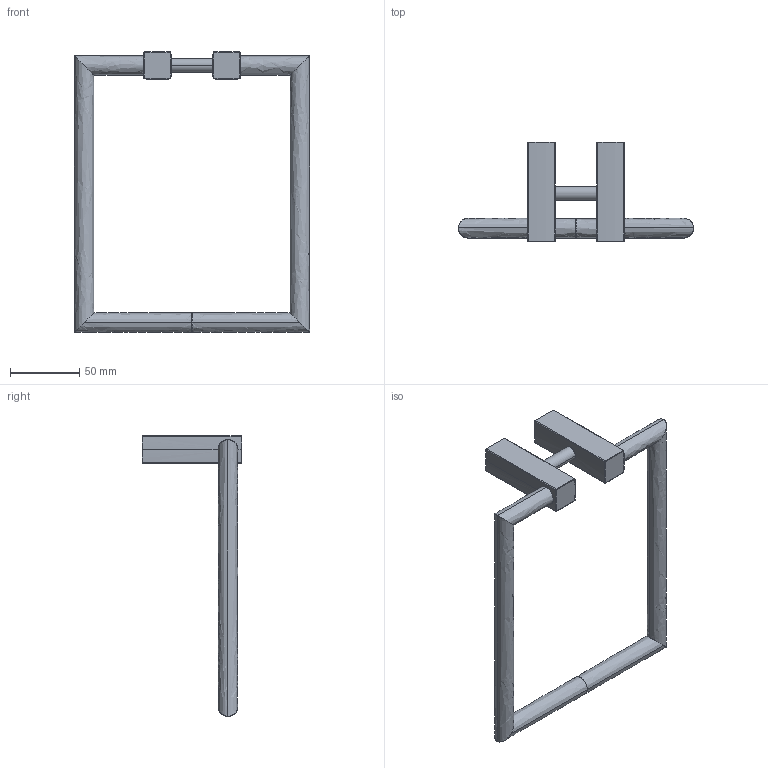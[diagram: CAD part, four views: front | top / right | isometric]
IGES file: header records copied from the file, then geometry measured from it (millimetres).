
Start section: SolidWorks IGES file using analytic representation for surfaces
Global section: file name: G:\Projects\New project\For Marketing\IGS\IGS\2015-12-4\382005021VW.IGS; native system: SolidWorks 2010; preprocessor: SolidWorks 2010; author: linda; date: 151201.135305; units: millimetre
Bounding box: 169.99 x 72 x 202.97 mm (x, y, z)
Surface area: 44010.2 mm2 (no closed solid volume)
Topology: 0 solids, 0 shells, 145 faces, 1788 edges, 1776 vertices
Faces by surface type: revolution 76, bspline 69
